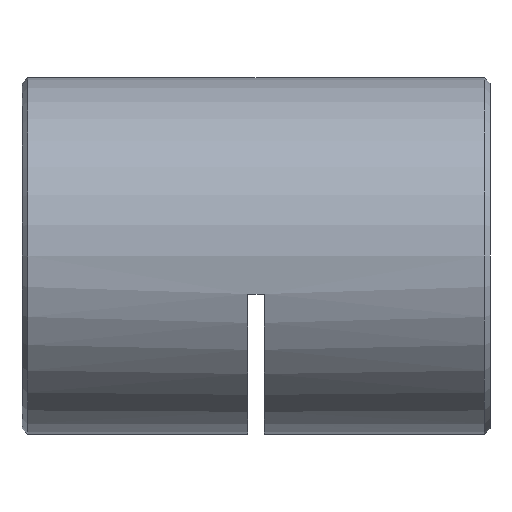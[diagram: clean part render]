
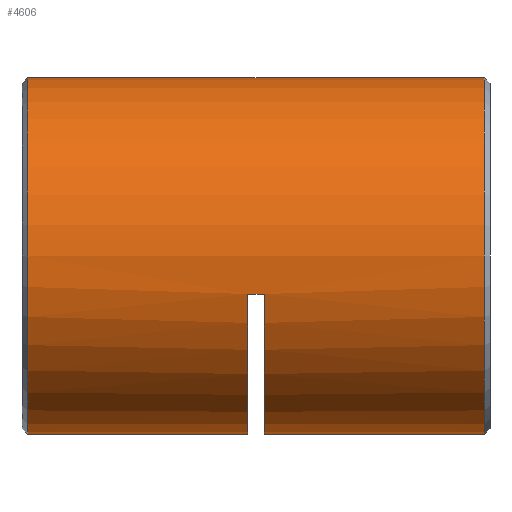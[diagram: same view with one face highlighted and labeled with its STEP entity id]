
A CAD part, left-side view. The second image highlights one B-rep face of the part: STEP entity #4606.
In plain terms, the highlighted cylindrical face has radius 16 mm (diameter 32 mm), a partial arc.
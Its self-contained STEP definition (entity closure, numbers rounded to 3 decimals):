
#60 = DIRECTION ( 'NONE',  ( 0., 0., -1. ) ) ;
#238 = VERTEX_POINT ( 'NONE', #5763 ) ;
#388 = CIRCLE ( 'NONE', #3413, 16. ) ;
#427 = VERTEX_POINT ( 'NONE', #894 ) ;
#474 = DIRECTION ( 'NONE',  ( 0., -1., 0. ) ) ;
#507 = ORIENTED_EDGE ( 'NONE', *, *, #2557, .T. ) ;
#521 = CARTESIAN_POINT ( 'NONE',  ( 0., 42.5, -16. ) ) ;
#826 = VERTEX_POINT ( 'NONE', #1616 ) ;
#894 = CARTESIAN_POINT ( 'NONE',  ( 0., 41.75, -16. ) ) ;
#931 = CARTESIAN_POINT ( 'NONE',  ( 0., 42.5, 16. ) ) ;
#1092 = ORIENTED_EDGE ( 'NONE', *, *, #5185, .F. ) ;
#1313 = CYLINDRICAL_SURFACE ( 'NONE', #3993, 16. ) ;
#1341 = CARTESIAN_POINT ( 'NONE',  ( -15.632, 20.5, -3.413 ) ) ;
#1374 = ORIENTED_EDGE ( 'NONE', *, *, #5528, .T. ) ;
#1428 = VERTEX_POINT ( 'NONE', #4490 ) ;
#1517 = DIRECTION ( 'NONE',  ( 0., -1., 0. ) ) ;
#1616 = CARTESIAN_POINT ( 'NONE',  ( 0., 22., -16. ) ) ;
#1843 = VERTEX_POINT ( 'NONE', #3434 ) ;
#1900 = CARTESIAN_POINT ( 'NONE',  ( 0., 20.5, 0. ) ) ;
#1941 = CARTESIAN_POINT ( 'NONE',  ( -15.632, 21.25, -3.413 ) ) ;
#2003 = DIRECTION ( 'NONE',  ( 0., -1., 0. ) ) ;
#2020 = DIRECTION ( 'NONE',  ( 0., -1., 0. ) ) ;
#2145 = CIRCLE ( 'NONE', #2964, 16. ) ;
#2334 = VECTOR ( 'NONE', #5462, 1000. ) ;
#2348 = ORIENTED_EDGE ( 'NONE', *, *, #2456, .F. ) ;
#2456 = EDGE_CURVE ( 'NONE', #5021, #1843, #3257, .T. ) ;
#2529 = CIRCLE ( 'NONE', #4276, 16. ) ;
#2538 = EDGE_CURVE ( 'NONE', #1428, #238, #2951, .T. ) ;
#2557 = EDGE_CURVE ( 'NONE', #5135, #3474, #4247, .T. ) ;
#2583 = CARTESIAN_POINT ( 'NONE',  ( 0., 0.75, 0. ) ) ;
#2587 = ORIENTED_EDGE ( 'NONE', *, *, #2538, .T. ) ;
#2738 = DIRECTION ( 'NONE',  ( 0., -1., 0. ) ) ;
#2845 = EDGE_CURVE ( 'NONE', #427, #826, #4792, .T. ) ;
#2951 = LINE ( 'NONE', #521, #5338 ) ;
#2962 = ORIENTED_EDGE ( 'NONE', *, *, #2845, .T. ) ;
#2964 = AXIS2_PLACEMENT_3D ( 'NONE', #1900, #5351, #3974 ) ;
#3036 = EDGE_CURVE ( 'NONE', #5021, #427, #4485, .T. ) ;
#3063 = CARTESIAN_POINT ( 'NONE',  ( 0., 41.75, 0. ) ) ;
#3113 = ORIENTED_EDGE ( 'NONE', *, *, #3036, .T. ) ;
#3257 = LINE ( 'NONE', #931, #5983 ) ;
#3314 = DIRECTION ( 'NONE',  ( 0., -1., 0. ) ) ;
#3413 = AXIS2_PLACEMENT_3D ( 'NONE', #2583, #5992, #3511 ) ;
#3434 = CARTESIAN_POINT ( 'NONE',  ( 0., 0.75, 16. ) ) ;
#3474 = VERTEX_POINT ( 'NONE', #1341 ) ;
#3511 = DIRECTION ( 'NONE',  ( 0., 0., 1. ) ) ;
#3630 = VECTOR ( 'NONE', #3314, 1000. ) ;
#3974 = DIRECTION ( 'NONE',  ( 0., 0., -1. ) ) ;
#3993 = AXIS2_PLACEMENT_3D ( 'NONE', #4217, #2738, #5179 ) ;
#4216 = AXIS2_PLACEMENT_3D ( 'NONE', #3063, #2003, #4941 ) ;
#4217 = CARTESIAN_POINT ( 'NONE',  ( 0., 42.5, 0. ) ) ;
#4247 = LINE ( 'NONE', #1941, #2334 ) ;
#4276 = AXIS2_PLACEMENT_3D ( 'NONE', #4466, #2020, #60 ) ;
#4351 = CARTESIAN_POINT ( 'NONE',  ( -15.632, 22., -3.413 ) ) ;
#4466 = CARTESIAN_POINT ( 'NONE',  ( 0., 22., 0. ) ) ;
#4485 = CIRCLE ( 'NONE', #4216, 16. ) ;
#4490 = CARTESIAN_POINT ( 'NONE',  ( 0., 20.5, -16. ) ) ;
#4541 = ORIENTED_EDGE ( 'NONE', *, *, #5143, .T. ) ;
#4606 = ADVANCED_FACE ( 'NONE', ( #5885 ), #1313, .T. ) ;
#4743 = CARTESIAN_POINT ( 'NONE',  ( 0., 41.75, 16. ) ) ;
#4792 = LINE ( 'NONE', #5744, #3630 ) ;
#4941 = DIRECTION ( 'NONE',  ( 0., 0., -1. ) ) ;
#5021 = VERTEX_POINT ( 'NONE', #4743 ) ;
#5135 = VERTEX_POINT ( 'NONE', #4351 ) ;
#5143 = EDGE_CURVE ( 'NONE', #3474, #1428, #2145, .T. ) ;
#5179 = DIRECTION ( 'NONE',  ( 0., 0., -1. ) ) ;
#5185 = EDGE_CURVE ( 'NONE', #5135, #826, #2529, .T. ) ;
#5338 = VECTOR ( 'NONE', #1517, 1000. ) ;
#5351 = DIRECTION ( 'NONE',  ( 0., -1., 0. ) ) ;
#5462 = DIRECTION ( 'NONE',  ( 0., -1., 0. ) ) ;
#5528 = EDGE_CURVE ( 'NONE', #238, #1843, #388, .T. ) ;
#5744 = CARTESIAN_POINT ( 'NONE',  ( 0., 42.5, -16. ) ) ;
#5763 = CARTESIAN_POINT ( 'NONE',  ( 0., 0.75, -16. ) ) ;
#5885 = FACE_OUTER_BOUND ( 'NONE', #6055, .T. ) ;
#5983 = VECTOR ( 'NONE', #474, 1000. ) ;
#5992 = DIRECTION ( 'NONE',  ( 0., 1., 0. ) ) ;
#6055 = EDGE_LOOP ( 'NONE', ( #2348, #3113, #2962, #1092, #507, #4541, #2587, #1374 ) ) ;
